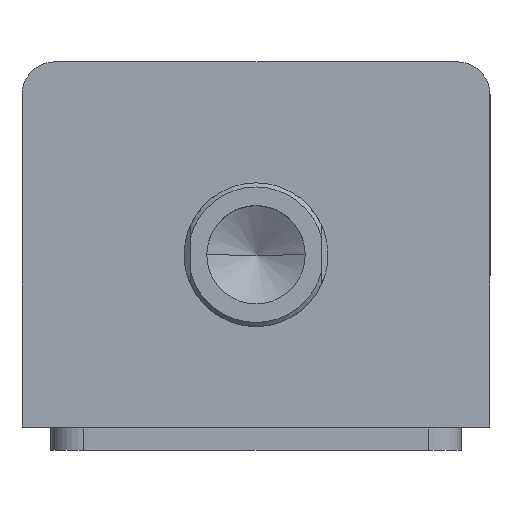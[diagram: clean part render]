
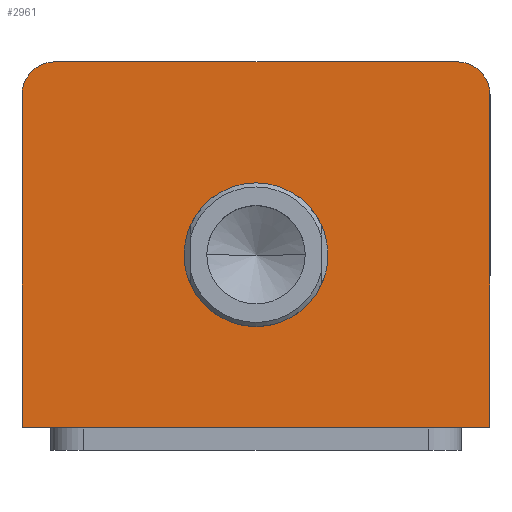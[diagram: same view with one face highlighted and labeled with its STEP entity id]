
A CAD part, top view. The second image highlights one B-rep face of the part: STEP entity #2961.
In plain terms, the highlighted planar face has unit normal (0, 0, 1).
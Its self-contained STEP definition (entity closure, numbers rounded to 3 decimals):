
#8 = DIRECTION ( 'NONE',  ( 0., 0., 1. ) ) ;
#9 = DIRECTION ( 'NONE',  ( 1., 0., 0. ) ) ;
#14 = CARTESIAN_POINT ( 'NONE',  ( -49., 36.5, 97. ) ) ;
#133 = DIRECTION ( 'NONE',  ( 0., -1., 0. ) ) ;
#134 = CARTESIAN_POINT ( 'NONE',  ( -57., 44.5, 97. ) ) ;
#137 = DIRECTION ( 'NONE',  ( 1., 0., 0. ) ) ;
#237 = EDGE_CURVE ( 'NONE', #2691, #2741, #1662, .T. ) ;
#312 = AXIS2_PLACEMENT_3D ( 'NONE', #1255, #1258, #137 ) ;
#319 = AXIS2_PLACEMENT_3D ( 'NONE', #14, #8, #9 ) ;
#1191 = VECTOR ( 'NONE', #3056, 1000. ) ;
#1197 = LINE ( 'NONE', #3063, #1191 ) ;
#1227 = AXIS2_PLACEMENT_3D ( 'NONE', #3023, #3019, #3041 ) ;
#1229 = AXIS2_PLACEMENT_3D ( 'NONE', #3059, #3054, #3052 ) ;
#1255 = CARTESIAN_POINT ( 'NONE',  ( 49., 36.5, 97. ) ) ;
#1258 = DIRECTION ( 'NONE',  ( 0., 0., 1. ) ) ;
#1378 = FACE_BOUND ( 'NONE', #1721, .T. ) ;
#1379 = FACE_OUTER_BOUND ( 'NONE', #1712, .T. ) ;
#1401 = VECTOR ( 'NONE', #2832, 1000. ) ;
#1404 = LINE ( 'NONE', #2824, #1401 ) ;
#1412 = CIRCLE ( 'NONE', #1227, 17.5 ) ;
#1417 = CIRCLE ( 'NONE', #1229, 17.5 ) ;
#1659 = VECTOR ( 'NONE', #3361, 1000. ) ;
#1662 = LINE ( 'NONE', #3362, #1659 ) ;
#1712 = EDGE_LOOP ( 'NONE', ( #2312, #2313, #2314, #2315, #2316, #2317 ) ) ;
#1721 = EDGE_LOOP ( 'NONE', ( #2310, #2311 ) ) ;
#1968 = CIRCLE ( 'NONE', #312, 8. ) ;
#1981 = CIRCLE ( 'NONE', #319, 8. ) ;
#1987 = LINE ( 'NONE', #134, #1990 ) ;
#1990 = VECTOR ( 'NONE', #133, 1000. ) ;
#2228 = EDGE_CURVE ( 'NONE', #2693, #2694, #1417, .T. ) ;
#2231 = EDGE_CURVE ( 'NONE', #2694, #2693, #1412, .T. ) ;
#2237 = EDGE_CURVE ( 'NONE', #2678, #2691, #1404, .T. ) ;
#2260 = EDGE_CURVE ( 'NONE', #2753, #2756, #1197, .T. ) ;
#2310 = ORIENTED_EDGE ( 'NONE', *, *, #2231, .F. ) ;
#2311 = ORIENTED_EDGE ( 'NONE', *, *, #2228, .F. ) ;
#2312 = ORIENTED_EDGE ( 'NONE', *, *, #2260, .T. ) ;
#2313 = ORIENTED_EDGE ( 'NONE', *, *, #3448, .T. ) ;
#2314 = ORIENTED_EDGE ( 'NONE', *, *, #3452, .T. ) ;
#2315 = ORIENTED_EDGE ( 'NONE', *, *, #2237, .T. ) ;
#2316 = ORIENTED_EDGE ( 'NONE', *, *, #237, .T. ) ;
#2317 = ORIENTED_EDGE ( 'NONE', *, *, #3439, .T. ) ;
#2678 = VERTEX_POINT ( 'NONE', #3001 ) ;
#2691 = VERTEX_POINT ( 'NONE', #2982 ) ;
#2693 = VERTEX_POINT ( 'NONE', #2979 ) ;
#2694 = VERTEX_POINT ( 'NONE', #2977 ) ;
#2741 = VERTEX_POINT ( 'NONE', #2891 ) ;
#2753 = VERTEX_POINT ( 'NONE', #2875 ) ;
#2756 = VERTEX_POINT ( 'NONE', #2871 ) ;
#2765 = VERTEX_POINT ( 'NONE', #2857 ) ;
#2824 = CARTESIAN_POINT ( 'NONE',  ( -57., -44.5, 97. ) ) ;
#2832 = DIRECTION ( 'NONE',  ( 1., 0., 0. ) ) ;
#2857 = CARTESIAN_POINT ( 'NONE',  ( -57., 36.5, 97. ) ) ;
#2871 = CARTESIAN_POINT ( 'NONE',  ( -49., 44.5, 97. ) ) ;
#2875 = CARTESIAN_POINT ( 'NONE',  ( 49., 44.5, 97. ) ) ;
#2891 = CARTESIAN_POINT ( 'NONE',  ( 57., 36.5, 97. ) ) ;
#2961 = ADVANCED_FACE ( 'NONE', ( #1378, #1379 ), #3297, .T. ) ;
#2977 = CARTESIAN_POINT ( 'NONE',  ( 17.5, -2.5, 97. ) ) ;
#2979 = CARTESIAN_POINT ( 'NONE',  ( -17.5, -2.5, 97. ) ) ;
#2982 = CARTESIAN_POINT ( 'NONE',  ( 57., -44.5, 97. ) ) ;
#3001 = CARTESIAN_POINT ( 'NONE',  ( -57., -44.5, 97. ) ) ;
#3019 = DIRECTION ( 'NONE',  ( 0., 0., 1. ) ) ;
#3023 = CARTESIAN_POINT ( 'NONE',  ( 0., -2.5, 97. ) ) ;
#3041 = DIRECTION ( 'NONE',  ( 1., 0., 0. ) ) ;
#3052 = DIRECTION ( 'NONE',  ( 1., 0., 0. ) ) ;
#3054 = DIRECTION ( 'NONE',  ( 0., 0., 1. ) ) ;
#3056 = DIRECTION ( 'NONE',  ( -1., 0., 0. ) ) ;
#3059 = CARTESIAN_POINT ( 'NONE',  ( 0., -2.5, 97. ) ) ;
#3063 = CARTESIAN_POINT ( 'NONE',  ( -57., 44.5, 97. ) ) ;
#3290 = DIRECTION ( 'NONE',  ( 1., 0., 0. ) ) ;
#3291 = DIRECTION ( 'NONE',  ( 0., 0., 1. ) ) ;
#3297 = PLANE ( 'NONE',  #3491 ) ;
#3302 = CARTESIAN_POINT ( 'NONE',  ( 0., 0., 97. ) ) ;
#3361 = DIRECTION ( 'NONE',  ( 0., 1., 0. ) ) ;
#3362 = CARTESIAN_POINT ( 'NONE',  ( 57., 44.5, 97. ) ) ;
#3439 = EDGE_CURVE ( 'NONE', #2741, #2753, #1968, .T. ) ;
#3448 = EDGE_CURVE ( 'NONE', #2756, #2765, #1981, .T. ) ;
#3452 = EDGE_CURVE ( 'NONE', #2765, #2678, #1987, .T. ) ;
#3491 = AXIS2_PLACEMENT_3D ( 'NONE', #3302, #3291, #3290 ) ;
